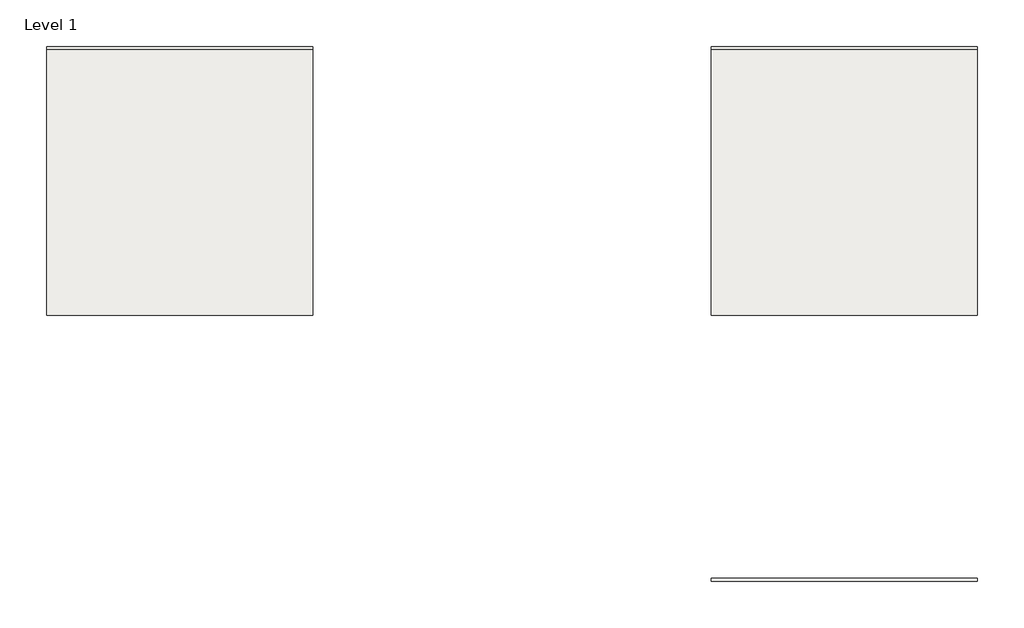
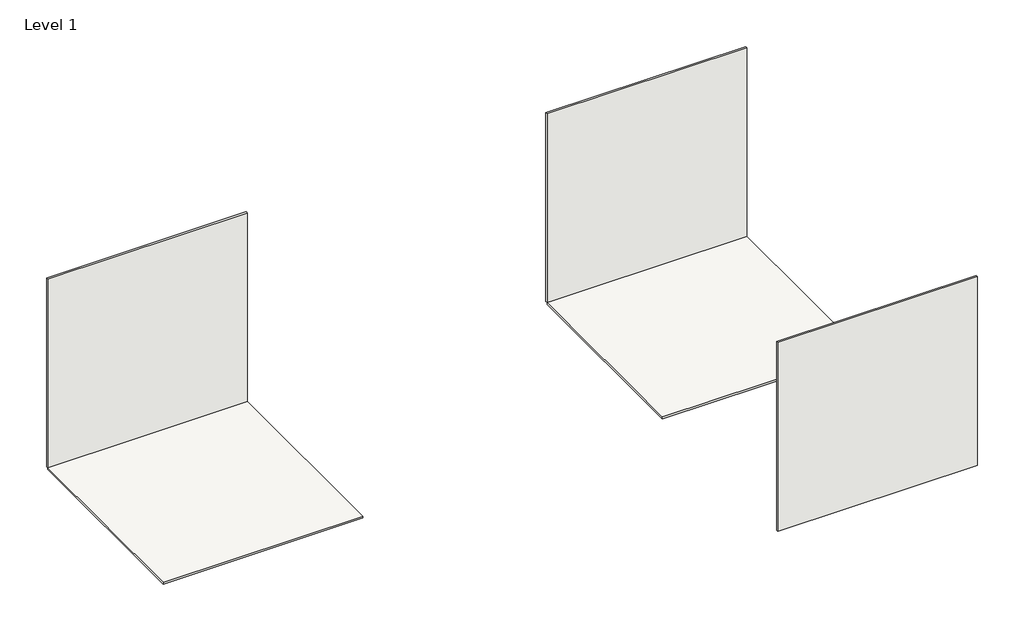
# One storey: 5 coverings.
"""IFC4 building model written with IfcOpenShell, lengths in millimetres."""

from ifc_helpers import new_model, si_unit, frame, origin, origin_with_axes, place, context, project, spatial, polyline, outline, extrude, element, save

model = new_model("IFC4")

# Units and contexts
model_context = context("Model", 3, world=origin())
ifc_project = project(units=[si_unit("LENGTHUNIT", "METRE", prefix="MILLI")], contexts=[model_context])

# Site, building, storey
site = spatial("IfcSite", under=ifc_project)
building = spatial("IfcBuilding", under=site)
storey = spatial("IfcBuildingStorey", under=building, Name="Level 1", Elevation=0.0)

# Coverings
placement = place(None, origin())
element("IfcCovering", 1, ObjectType="REVIGRES-CALACATTA_CLASSIC-DECOR-14x59-MATTRECT-CLASSIC", at=placement, inside=storey, context=model_context, shape_type="SweptSolid", body=[
    extrude(outline(polyline([(9810.272466, -5421.2806644), (8810.272466, -5421.2806644), (8810.272466, -5411.4806644), (9810.272466, -5411.4806644), (9810.272466, -5421.2806644)])), origin_with_axes(), (0.0, 0.0, 1.0), 1000.0),
])
element("IfcCovering", 2, ObjectType="REVIGRES-CALACATTA_CLASSIC-DECOR-14x59-POL-CLASSIC", at=placement, inside=storey, context=model_context, shape_type="SweptSolid", body=[
    extrude(outline(polyline([(11310.272466, -5421.2806644), (12310.272466, -5421.2806644), (12310.272466, -6421.2806644), (11310.272466, -6421.2806644), (11310.272466, -5421.2806644)])), frame((0.0, 0.0, -9.8), z_axis=(0.0, 0.0, 1.0), x_axis=(1.0, 0.0, 0.0)), (0.0, 0.0, 1.0), 9.8),
])
element("IfcCovering", 3, ObjectType="REVIGRES-CALACATTA_CLASSIC-DECOR-14x59-POL-CLASSIC", at=placement, inside=storey, context=model_context, shape_type="SweptSolid", body=[
    extrude(outline(polyline([(12310.272466, -5421.2806644), (11310.272466, -5421.2806644), (11310.272466, -5411.4806644), (12310.272466, -5411.4806644), (12310.272466, -5421.2806644)])), origin_with_axes(), (0.0, 0.0, 1.0), 1000.0),
])
element("IfcCovering", 4, ObjectType="REVIGRES-CALACATTA_CLASSIC-DECOR-14x59-MATTRECT-CLASSIC", at=placement, inside=storey, context=model_context, shape_type="SweptSolid", body=[
    extrude(outline(polyline([(8810.272466, -5421.2806644), (9810.272466, -5421.2806644), (9810.272466, -6421.2806644), (8810.272466, -6421.2806644), (8810.272466, -5421.2806644)])), frame((0.0, 0.0, -9.8), z_axis=(0.0, 0.0, 1.0), x_axis=(1.0, 0.0, 0.0)), (0.0, 0.0, 1.0), 9.8),
])
element("IfcCovering", 5, ObjectType="REVIGRES-CALACATTA_CLASSIC-DECOR-59.2x118.6-POL-ROYAL GOLD", at=placement, inside=storey, context=model_context, shape_type="SweptSolid", body=[
    extrude(outline(polyline([(12310.272466, -7421.2806644), (11310.272466, -7421.2806644), (11310.272466, -7411.4806644), (12310.272466, -7411.4806644), (12310.272466, -7421.2806644)])), origin_with_axes(), (0.0, 0.0, 1.0), 1000.0),
])

save(model, "model.ifc")
